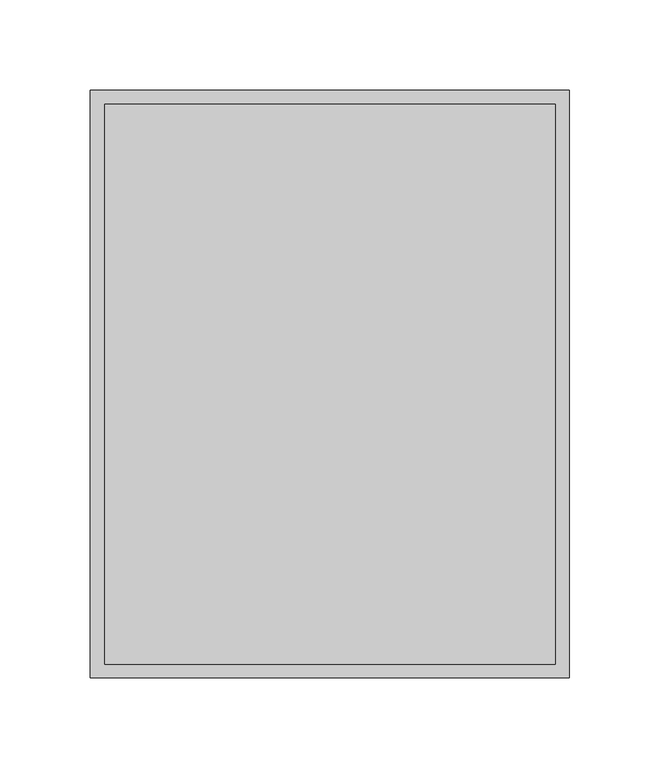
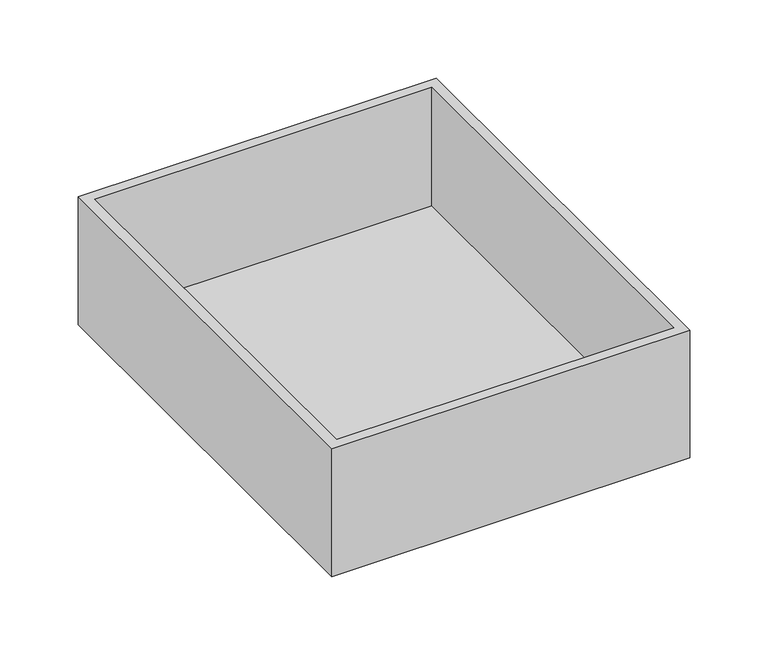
"""IFC4 building model written with IfcOpenShell, lengths in millimetres: proxy geometry, Modelos genéricos 113 : Modelos genéricos 29."""

from ifc_helpers import new_model, si_unit, origin, place, context, project, spatial, faceted_brep, source, transform, mapped, element, save


def generic_models_5800e7f6(model_context):
    return source(origin(), model_context, "Body", "Brep", [
        faceted_brep([(8418.4435236, -11190.7048491, 1086.3966943), (8683.4435236, -11190.7048491, 1086.3966943), (8683.4435236, -10865.7048491, 1086.3966943), (8418.4435236, -10865.7048491, 1086.3966943), (8675.6487652, -11183.3619765, 1086.3966943), (8426.3046853, -11183.3619765, 1086.3966943), (8426.3046853, -10873.3619765, 1086.3966943), (8675.6487652, -10873.3619765, 1086.3966943), (8418.4435236, -11190.7048491, 986.3966943), (8418.4435236, -10865.7048491, 986.3966943), (8683.4435236, -10865.7048491, 986.3966943), (8683.4435236, -11190.7048491, 986.3966943), (8675.6487652, -11183.3619765, 993.8583576), (8426.3046853, -11183.3619765, 993.8583576), (8675.6487652, -10873.3619765, 993.8583576), (8426.3046853, -10873.3619765, 993.8583576)], [[[0, 1, 2, 3], [4, 5, 6, 7]], [[8, 9, 10, 11]], [[1, 0, 8, 11]], [[2, 1, 11, 10]], [[3, 2, 10, 9]], [[0, 3, 9, 8]], [[12, 13, 5, 4]], [[14, 12, 4, 7]], [[15, 14, 7, 6]], [[13, 15, 6, 5]], [[13, 12, 14, 15]]]),
    ])


if __name__ == "__main__":
    model = new_model("IFC4")
    model_context = context("Model", 3, world=origin())
    ifc_project = project(units=[si_unit("LENGTHUNIT", "METRE", prefix="MILLI")], contexts=[model_context])
    site = spatial("IfcSite", under=ifc_project)
    building = spatial("IfcBuilding", under=site)
    placement = place(None, origin())
    generic_models_shape = generic_models_5800e7f6(model_context)
    element("IfcBuildingElementProxy", 1, Name="Modelos genéricos 113 : Modelos genéricos 29", ObjectType="Modelos genéricos 113 : Modelos genéricos 29", at=placement, inside=building, context=model_context, shape_type="MappedRepresentation", body=[
        mapped(generic_models_shape, transform((0.0, 0.0, 0.0), x_axis=(1.0, 0.0, 0.0), y_axis=(0.0, 1.0, 0.0), z_axis=(0.0, 0.0, 1.0))),
    ])
    save(model, "model.ifc")
